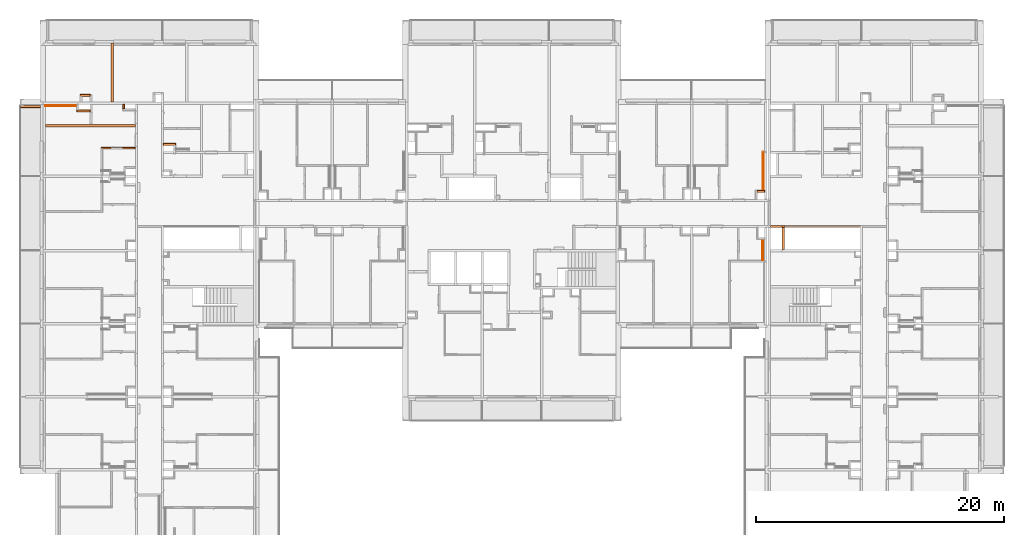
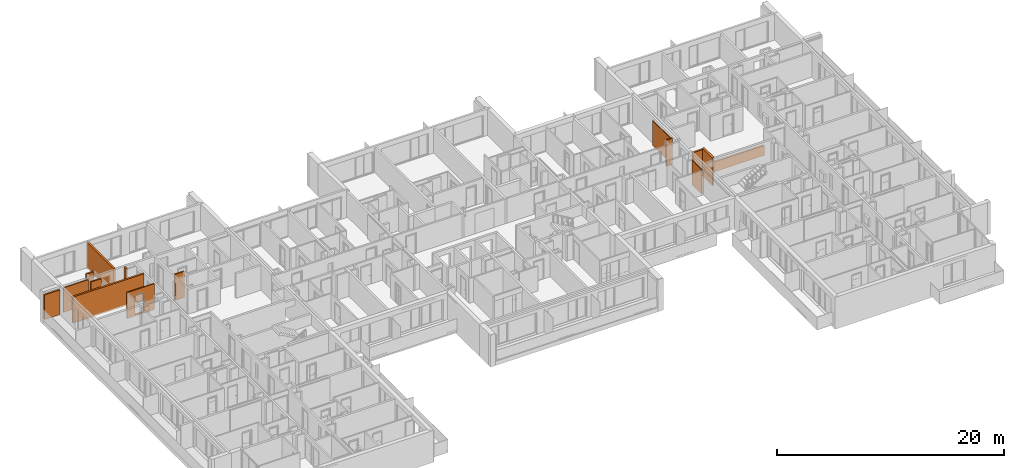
# One storey, part 61 of 67: 15 proxies, 1 opening.
"""IFC2X3 building model written with IfcOpenShell, lengths in millimetres."""

from ifc_helpers import new_model, entity, si_unit, converted_unit, derived_unit, money_unit, direction, frame, origin_with_axes, origin_2d_with_axis, place, context, subcontext, project, spatial, rectangle, extrude, faceted_brep, material, material_list, type_object, element, save


model = new_model("IFC2X3")

# Units and contexts
model_context = context("Model", 3, precision=0.01, world=origin_with_axes(), true_north=direction((0.34421633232, 0.938890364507)))
body_context = subcontext(model_context, "Body", "Model", "MODEL_VIEW")
ifc_project = project(units=[si_unit("LENGTHUNIT", "METRE", prefix="MILLI"), si_unit("AREAUNIT", "SQUARE_METRE"), si_unit("VOLUMEUNIT", "CUBIC_METRE"), converted_unit("PLANEANGLEUNIT", "DEGREE", entity("IfcPlaneAngleMeasure", 0.0174532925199), si_unit("PLANEANGLEUNIT", "RADIAN"), dimensions=[0, 0, 0, 0, 0, 0, 0]), si_unit("SOLIDANGLEUNIT", "STERADIAN"), money_unit("USD"), converted_unit("TIMEUNIT", "Year", entity("IfcTimeMeasure", 31556926.0), si_unit("TIMEUNIT", "SECOND"), dimensions=[0, 0, 1, 0, 0, 0, 0]), si_unit("MASSUNIT", "GRAM", prefix="KILO"), si_unit("THERMODYNAMICTEMPERATUREUNIT", "DEGREE_CELSIUS"), si_unit("LUMINOUSINTENSITYUNIT", "LUMEN"), si_unit("ENERGYUNIT", "JOULE", prefix="MEGA"), derived_unit("THERMALCONDUCTANCEUNIT", [(si_unit("POWERUNIT", "WATT"), 1), (si_unit("LENGTHUNIT", "METRE"), -1), (si_unit("THERMODYNAMICTEMPERATUREUNIT", "KELVIN"), -1)]), derived_unit("SPECIFICHEATCAPACITYUNIT", [(si_unit("ENERGYUNIT", "JOULE"), 1), (si_unit("MASSUNIT", "GRAM", prefix="KILO"), -1), (si_unit("THERMODYNAMICTEMPERATUREUNIT", "KELVIN"), -1)]), derived_unit("MASSDENSITYUNIT", [(si_unit("MASSUNIT", "GRAM", prefix="KILO"), 1), (si_unit("VOLUMEUNIT", "CUBIC_METRE"), -1)])], contexts=[model_context])

# Site, building, storey
site_placement = place(None, origin_with_axes())
site = spatial("IfcSite", under=ifc_project, at=site_placement, Name="USTRONIE MORSKIE", CompositionType="ELEMENT")
building_placement = place(site_placement, origin_with_axes())
building = spatial("IfcBuilding", under=site, at=building_placement, Name="Budynek", CompositionType="ELEMENT")
storey_placement = place(building_placement, frame((0.0, 0.0, 4000.0), z_axis=(0.0, 0.0, 1.0), x_axis=(1.0, 0.0, 0.0)))
storey = spatial("IfcBuildingStorey", under=building, at=storey_placement, Name="PIĘTRO 1", CompositionType="ELEMENT", Elevation=4000.0)

# Proxy, opening
ifc_material_1 = material(Name="Bloczki silikatowe")
building_element_proxy_type_1 = type_object("IfcBuildingElementProxyType", Name="Bloczki silikatowe 120", PredefinedType="NOTDEFINED")
proxy_1_placement = place(storey_placement, frame((354717.920919, 741061.218206, -160.0), z_axis=(0.0, 0.0, 1.0), x_axis=(1.0, 0.0, 0.0)))
proxy_1 = element("IfcBuildingElementProxy", 1, at=proxy_1_placement, inside=storey, type_object=building_element_proxy_type_1, material=ifc_material_1, Name="SW-04", context=body_context, shape_type="Brep", body=[
    faceted_brep([(2720.0, 59.9999999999, 0.0), (2720.0, -59.9999999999, 0.0), (-60.0, -59.9999999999, 0.0), (-60.0, 59.9999999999, 0.0), (2720.0, 59.9999999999, 2800.0), (2720.0, -59.9999999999, 2800.0), (-60.0, -59.9999999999, 2800.0), (-60.0, 59.9999999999, 2800.0)], [[[0, 1, 2, 3]], [[1, 0, 4, 5]], [[1, 5, 6, 2]], [[7, 3, 2, 6]], [[4, 0, 3, 7]], [[5, 4, 7, 6]]]),
])
opening_placement = place(proxy_1_placement, frame((1200.0, 0.0, 160.0), z_axis=(0.0, 0.0, 1.0), x_axis=(1.0, 0.0, 0.0)))
element("IfcOpeningElement", 2, at=opening_placement, cuts=proxy_1, Name="Dw.4", context=body_context, shape_type="SweptSolid", body=[
    extrude(rectangle(XDim=920.0, YDim=2070.0, at=origin_2d_with_axis()), frame((0.0, -120.0, 1035.0), z_axis=(0.0, 1.0, 0.0), x_axis=(1.0, 0.0, 0.0)), (0.0, 0.0, 1.0), 360.0),
    extrude(rectangle(XDim=994.0, YDim=2177.0, at=origin_2d_with_axis()), frame((0.0, -59.9999999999, 1088.5), z_axis=(0.0, 1.0, 0.0), x_axis=(1.0, 0.0, 0.0)), (0.0, 0.0, -1.0), 120.0),
    extrude(rectangle(XDim=994.0, YDim=2177.0, at=origin_2d_with_axis()), frame((0.0, 60.0000000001, 1088.5), z_axis=(0.0, -1.0, 0.0), x_axis=(1.0, 0.0, 0.0)), (0.0, 0.0, -1.0), 120.0),
])

# Proxies
building_element_proxy_type_2 = type_object("IfcBuildingElementProxyType", Name="Bloczki silikatowe 180", PredefinedType="NOTDEFINED")
proxy_2_placement = place(storey_placement, frame((357517.920919, 742871.199128, -160.0), z_axis=(0.0, 0.0, 1.0), x_axis=(-1.0, 0.0, 0.0)))
element("IfcBuildingElementProxy", 3, at=proxy_2_placement, inside=storey, type_object=building_element_proxy_type_2, material=ifc_material_1, Name="SW-02", context=body_context, shape_type="Brep", body=[
    faceted_brep([(7350.0, -90.0, 2800.0), (7350.0, 90.0, 2800.0), (80.0, 90.0, 2800.0), (80.0, -90.0, 2800.0), (7350.0, -90.0, 0.0), (7350.0, 90.0, 0.0), (80.0, 90.0, 0.0), (80.0, -90.0, 0.0)], [[[0, 1, 2, 3]], [[1, 0, 4, 5]], [[1, 5, 6, 2]], [[7, 3, 2, 6]], [[4, 0, 3, 7]], [[5, 4, 7, 6]]]),
])
proxy_3_placement = place(storey_placement, frame((408567.843428, 734741.199071, -160.0), z_axis=(0.0, 0.0, 1.0), x_axis=(1.0, 0.0, 0.0)))
element("IfcBuildingElementProxy", 4, at=proxy_3_placement, inside=storey, type_object=building_element_proxy_type_2, material=ifc_material_1, Name="SW-02", context=body_context, shape_type="Brep", body=[
    faceted_brep([(100.00050428, -90.0, 2800.0), (1050.07319249, -90.0, 2800.0), (1050.07228479, 90.0000000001, 2800.0), (99.9995965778, 90.0, 2800.0), (1050.07319249, -90.0, 0.0), (100.00050428, -90.0, 0.0), (1050.07228479, 90.0000000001, 0.0), (99.9995965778, 90.0, 0.0)], [[[0, 1, 2, 3]], [[4, 1, 0, 5]], [[6, 2, 1, 4]], [[3, 2, 6, 7]], [[5, 0, 3, 7]], [[7, 6, 4, 5]]]),
])
proxy_4_placement = place(storey_placement, frame((409717.916167, 734741.198985, -160.0), z_axis=(0.0, 0.0, 1.0), x_axis=(1.0, 0.0, 0.0)))
element("IfcBuildingElementProxy", 5, at=proxy_4_placement, inside=storey, type_object=building_element_proxy_type_2, material=ifc_material_1, Name="SW-02", context=body_context, shape_type="Brep", body=[
    faceted_brep([(6220.00475191, 90.0, 0.0), (99.9995461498, 90.0000852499, 0.0), (99.9995461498, 90.0000852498, 1060.0), (6220.00475191, 90.0, 1060.0), (6220.00475191, -90.0, 0.0), (100.000453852, -90.0, 0.0), (100.000453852, -90.0, 1060.0), (6220.00475191, -90.0, 1060.0)], [[[0, 1, 2, 3]], [[4, 5, 1, 0]], [[5, 6, 2, 1]], [[3, 2, 6, 7]], [[4, 0, 3, 7]], [[7, 6, 5, 4]]]),
])
ifc_material_2 = material(Name="Płyta GK")
ifc_material_3 = material(Name="-Pustka powietrzna")
ifc_material_list_1 = material_list([ifc_material_2, ifc_material_2, ifc_material_3])
building_element_proxy_type_3 = type_object("IfcBuildingElementProxyType", Name="330-SD GK 2-warstwy 75", PredefinedType="NOTDEFINED")
proxy_5_placement = place(storey_placement, frame((408087.943039, 737501.202288, -180.0), z_axis=(0.0, 0.0, 1.0), x_axis=(0.0, 1.0, 0.0)))
element("IfcBuildingElementProxy", 6, at=proxy_5_placement, inside=storey, type_object=building_element_proxy_type_3, material=ifc_material_list_1, Name="Ściana-009", context=body_context, shape_type="Brep", body=[
    faceted_brep([(150.0, 12.5, 165.0), (3282.5, 12.5, 165.0), (3282.5, 12.5, 2820.0), (150.0, 12.5, 2820.0), (3282.5, 25.0, 165.0), (150.0, 25.0, 165.0), (3282.5, 25.0, 2820.0), (150.0, 25.0, 2820.0)], [[[0, 1, 2, 3]], [[4, 1, 0, 5]], [[1, 4, 6, 2]], [[6, 7, 3, 2]], [[5, 0, 3, 7]], [[4, 5, 7, 6]]]),
    faceted_brep([(150.0, 0.0, 165.0), (3270.0, 0.0, 165.0), (3270.0, 0.0, 2820.0), (150.0, 0.0, 2820.0), (3270.0, 12.5, 165.0), (150.0, 12.5, 165.0), (3270.0, 12.5, 2820.0), (150.0, 12.5, 2820.0)], [[[0, 1, 2, 3]], [[4, 1, 0, 5]], [[1, 4, 6, 2]], [[6, 7, 3, 2]], [[5, 0, 3, 7]], [[4, 5, 7, 6]]]),
    faceted_brep([(150.0, -50.0, 180.0), (3220.0, -50.0, 180.0), (3220.0, -50.0, 2820.0), (150.0, -50.0, 2820.0), (3220.0, 0.0, 180.0), (150.0, 0.0, 180.0), (3220.0, 0.0, 2820.0), (150.0, 0.0, 2820.0)], [[[0, 1, 2, 3]], [[4, 1, 0, 5]], [[1, 4, 6, 2]], [[6, 7, 3, 2]], [[5, 0, 3, 7]], [[4, 5, 7, 6]]]),
])
ifc_material_list_2 = material_list([ifc_material_3, ifc_material_2, ifc_material_2])
proxy_6_placement = place(storey_placement, frame((408072.933272, 733851.192447, -160.0), z_axis=(0.0, 0.0, 1.0), x_axis=(0.0, -1.0, 0.0)))
element("IfcBuildingElementProxy", 7, at=proxy_6_placement, inside=storey, type_object=building_element_proxy_type_3, material=ifc_material_list_2, Name="Ściana-009", context=body_context, shape_type="Brep", body=[
    faceted_brep([(1839.99331466, 25.0, 160.0), (120.00171322, 25.0, 160.0), (120.00171322, 25.0, 2800.0), (1839.99331466, 25.0, 2800.0), (120.0001558, -25.0, 160.0), (1839.99331466, -25.0, 160.0), (120.0001558, -25.0, 2800.0), (1839.99331466, -25.0, 2800.0)], [[[0, 1, 2, 3]], [[4, 1, 0, 5]], [[1, 4, 6, 2]], [[7, 3, 2, 6]], [[5, 0, 3, 7]], [[4, 5, 7, 6]]]),
    faceted_brep([(1839.99331466, -25.0, 145.0), (120.0001558, -25.0, 145.0), (120.0001558, -25.0, 2800.0), (1839.99331466, -25.0, 2800.0), (119.999766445, -37.5, 145.0), (1839.99331466, -37.5, 145.0), (119.999766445, -37.5, 2800.0), (1839.99331466, -37.5, 2800.0)], [[[0, 1, 2, 3]], [[4, 1, 0, 5]], [[1, 4, 6, 2]], [[7, 3, 2, 6]], [[5, 0, 3, 7]], [[4, 5, 7, 6]]]),
    faceted_brep([(1839.99331466, -37.5, 145.0), (119.999766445, -37.5, 145.0), (119.999766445, -37.5, 2800.0), (1839.99331466, -37.5, 2800.0), (119.99937709, -50.0, 145.0), (1839.99331466, -50.0, 145.0), (119.99937709, -50.0, 2800.0), (1839.99331466, -50.0, 2800.0)], [[[0, 1, 2, 3]], [[4, 1, 0, 5]], [[1, 4, 6, 2]], [[7, 3, 2, 6]], [[5, 0, 3, 7]], [[4, 5, 7, 6]]]),
])
proxy_7_placement = place(storey_placement, frame((352792.920919, 744481.199036, -180.0), z_axis=(0.0, 0.0, 1.0), x_axis=(-1.0, 0.0, 0.0)))
element("IfcBuildingElementProxy", 8, at=proxy_7_placement, inside=storey, type_object=building_element_proxy_type_3, material=ifc_material_list_1, Name="Ściana-009", context=body_context, shape_type="Brep", body=[
    faceted_brep([(75.0, 25.0, 165.0), (75.0, 12.5, 165.0), (75.0, 12.5, 2820.0), (75.0, 25.0, 2820.0), (2624.99960992, 12.5000000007, 165.0), (2624.99961008, 25.0000000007, 165.0), (2625.0, 12.5000000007, 2820.0), (2625.0, 25.0000000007, 2820.0)], [[[0, 1, 2, 3]], [[4, 1, 0, 5]], [[1, 4, 6, 2]], [[7, 3, 2, 6]], [[5, 0, 3, 7]], [[4, 5, 7, 6]]]),
    faceted_brep([(75.0, 12.5, 165.0), (75.0, 0.0, 165.0), (75.0, 0.0, 2820.0), (75.0, 12.5, 2820.0), (2624.99960975, 6.8212102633e-10, 165.0), (2624.99960992, 12.5000000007, 165.0), (2625.0, 6.8212102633e-10, 2820.0), (2625.0, 12.5000000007, 2820.0)], [[[0, 1, 2, 3]], [[4, 1, 0, 5]], [[1, 4, 6, 2]], [[7, 3, 2, 6]], [[5, 0, 3, 7]], [[4, 5, 7, 6]]]),
    faceted_brep([(75.0, 0.0, 180.0), (75.0, -50.0, 180.0), (75.0, -50.0, 2820.0), (75.0, 0.0, 2820.0), (2624.99960908, -49.9999999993, 180.0), (2624.99960975, 6.8212102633e-10, 180.0), (2625.0, -49.9999999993, 2820.0), (2625.0, 6.8212102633e-10, 2820.0)], [[[0, 1, 2, 3]], [[4, 1, 0, 5]], [[1, 4, 6, 2]], [[7, 3, 2, 6]], [[5, 0, 3, 7]], [[4, 5, 7, 6]]]),
])
building_element_proxy_type_4 = type_object("IfcBuildingElementProxyType", Name="Bloczki silikatowe 150", PredefinedType="NOTDEFINED")
proxy_8_placement = place(storey_placement, frame((407617.937739, 737501.202288, -160.0), z_axis=(0.0, 0.0, 1.0), x_axis=(1.0, 0.0, 0.0)))
element("IfcBuildingElementProxy", 9, at=proxy_8_placement, inside=storey, type_object=building_element_proxy_type_4, material=ifc_material_1, Name="SW-03", context=body_context, shape_type="Brep", body=[
    faceted_brep([(599.983179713, 0.0, 2800.0), (599.983179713, 150.0, 2800.0), (0.0, 150.0, 2800.0), (0.0, 0.0, 2800.0), (599.983179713, 0.0, 0.0), (599.983179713, 150.0, 0.0), (0.0, 150.0, 0.0), (0.0, 0.0, 0.0)], [[[0, 1, 2, 3]], [[1, 0, 4, 5]], [[1, 5, 6, 2]], [[7, 3, 2, 6]], [[4, 0, 3, 7]], [[5, 4, 7, 6]]]),
])
proxy_9_placement = place(storey_placement, frame((352792.920919, 744091.199036, -160.0), z_axis=(0.0, 0.0, 1.0), x_axis=(1.0, 0.0, 0.0)))
element("IfcBuildingElementProxy", 10, at=proxy_9_placement, inside=storey, type_object=building_element_proxy_type_4, material=ifc_material_1, Name="SW-03", context=body_context, shape_type="Brep", body=[
    faceted_brep([(975.0, -90.0, 2800.0), (975.0, 59.9999999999, 2800.0), (-75.0, 59.9999999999, 2800.0), (-75.0, -90.0, 2800.0), (975.0, -90.0, 0.0), (975.0, 59.9999999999, 0.0), (-75.0, 59.9999999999, 0.0), (-75.0, -90.0, 0.0)], [[[0, 1, 2, 3]], [[1, 0, 4, 5]], [[1, 5, 6, 2]], [[7, 3, 2, 6]], [[4, 0, 3, 7]], [[5, 4, 7, 6]]]),
])
proxy_10_placement = place(storey_placement, frame((356477.920018, 744701.199036, -160.0), z_axis=(0.0, 0.0, 1.0), x_axis=(0.0, -1.0, 0.0)))
element("IfcBuildingElementProxy", 11, at=proxy_10_placement, inside=storey, type_object=building_element_proxy_type_4, material=ifc_material_1, Name="SW-04", context=body_context, shape_type="Brep", body=[
    faceted_brep([(450.0, 90.0, 0.0), (450.0, -60.0, 0.0), (100.0, -60.0, 0.0), (100.0, 90.0, 0.0), (450.0, 90.0, 2800.0), (450.0, -60.0, 2800.0), (100.0, -60.0, 2800.0), (100.0, 90.0, 2800.0)], [[[0, 1, 2, 3]], [[1, 0, 4, 5]], [[1, 5, 6, 2]], [[7, 3, 2, 6]], [[4, 0, 3, 7]], [[5, 4, 7, 6]]]),
])
proxy_11_placement = place(storey_placement, frame((360592.922714, 741376.180377, -160.0), z_axis=(0.0, 0.0, 1.0), x_axis=(-1.0, 0.0, 0.0)))
element("IfcBuildingElementProxy", 12, at=proxy_11_placement, inside=storey, type_object=building_element_proxy_type_4, material=ifc_material_1, Name="SW-04", context=body_context, shape_type="Brep", body=[
    faceted_brep([(895.001794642, -75.0, 2800.0), (895.001794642, 75.0, 2800.0), (-75.0, 75.0, 2800.0), (-75.0, -75.0, 2800.0), (895.001794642, -75.0, 0.0), (895.001794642, 75.0, 0.0), (-75.0, 75.0, 0.0), (-75.0, -75.0, 0.0)], [[[0, 1, 2, 3]], [[1, 0, 4, 5]], [[1, 5, 6, 2]], [[7, 3, 2, 6]], [[4, 0, 3, 7]], [[5, 4, 7, 6]]]),
])
proxy_12_placement = place(storey_placement, frame((353842.920919, 745311.199036, -160.0), z_axis=(0.0, 0.0, 1.0), x_axis=(-1.0, 0.0, 0.0)))
element("IfcBuildingElementProxy", 13, at=proxy_12_placement, inside=storey, type_object=building_element_proxy_type_4, material=ifc_material_1, Name="Œciana-007", context=body_context, shape_type="Brep", body=[
    faceted_brep([(875.0, -90.0, 2800.0), (875.0, 59.9999999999, 2800.0), (75.0, 59.9999999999, 2800.0), (75.0, -90.0, 2800.0), (875.0, -90.0, 0.0), (875.0, 59.9999999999, 0.0), (75.0, 59.9999999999, 0.0), (75.0, -90.0, 0.0)], [[[0, 1, 2, 3]], [[1, 0, 4, 5]], [[1, 5, 6, 2]], [[7, 3, 2, 6]], [[4, 0, 3, 7]], [[5, 4, 7, 6]]]),
])
ifc_material_4 = material(Name="Beton konstrukcyjny B25")
building_element_proxy_type_5 = type_object("IfcBuildingElementProxyType", Name="Beton konstrukcyjny B25 200", PredefinedType="NOTDEFINED")
proxy_13_placement = place(storey_placement, frame((355567.920919, 744701.199036, -230.0), z_axis=(0.0, 0.0, 1.0), x_axis=(0.0, 1.0, 0.0)))
element("IfcBuildingElementProxy", 14, at=proxy_13_placement, inside=storey, type_object=building_element_proxy_type_5, material=ifc_material_4, Name="SW-01", context=body_context, shape_type="Brep", body=[
    faceted_brep([(100.0, -100.0, 70.0), (4650.0, -100.0, 70.0), (4650.0, -100.0, 0.0), (4850.0, -100.0, 0.0), (4850.0, -100.0, 2870.0), (100.0, -100.0, 2870.0), (4650.0, 100.0, 70.0), (100.0, 100.0, 70.0), (4650.0, 100.0, 0.0), (4850.0, 100.0, 0.0), (4850.0, 100.0, 2870.0), (100.0, 100.0, 2870.0)], [[[0, 1, 2, 3, 4, 5]], [[6, 1, 0, 7]], [[8, 2, 1, 6]], [[3, 2, 8, 9]], [[3, 9, 10, 4]], [[4, 10, 11, 5]], [[11, 7, 0, 5]], [[8, 6, 7, 11, 10, 9]]]),
])
proxy_14_placement = place(storey_placement, frame((409717.916167, 734741.199071, -160.0), z_axis=(0.0, 0.0, 1.0), x_axis=(5.04278974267e-06, -0.999999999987, 0.0)))
element("IfcBuildingElementProxy", 15, at=proxy_14_placement, inside=storey, type_object=building_element_proxy_type_5, material=ifc_material_4, Name="SW-01", context=body_context, shape_type="Brep", body=[
    faceted_brep([(-90.0005042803, -100.0, 2800.0), (0.0, -100.0, 2800.0), (0.0, 100.0, 2800.0), (-89.9994957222, 100.0, 2800.0), (89.9994337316, -100.0, 3000.0), (89.9994337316, -100.0, 2800.0), (-90.0005042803, -100.0, 1060.0), (-90.0005042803, -100.0, 0.0), (1839.99953008, -100.0, 0.0), (1839.99953008, -100.0, 3000.0), (90.0004422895, 100.0, 2800.0), (90.0004422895, 100.0, 3000.0), (1840.00053864, 100.0, 3000.0), (1840.00053864, 100.0, 0.0), (-89.9994957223, 100.0, 0.0), (-89.9994957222, 100.0, 1060.0)], [[[0, 1, 2, 3]], [[4, 5, 1, 0, 6, 7, 8, 9]], [[5, 10, 2, 1]], [[2, 10, 11, 12, 13, 14, 15, 3]], [[3, 15, 6, 0]], [[5, 4, 11, 10]], [[15, 14, 7, 6]], [[14, 13, 8, 7]], [[9, 8, 13, 12]], [[12, 11, 4, 9]]]),
])
ifc_material_5 = material(Name="Laminat")
building_element_proxy_type_6 = type_object("IfcBuildingElementProxyType", Name="Laminat 150", PredefinedType="NOTDEFINED")
proxy_15_placement = place(storey_placement, frame((349757.921003, 744416.199036, -30.000001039), z_axis=(0.0, 0.0, 1.0), x_axis=(-1.0, 0.0, 0.0)))
element("IfcBuildingElementProxy", 16, at=proxy_15_placement, inside=storey, type_object=building_element_proxy_type_6, material=ifc_material_5, context=body_context, shape_type="Brep", body=[
    faceted_brep([(0.0, -75.0, 2659.99999287), (1589.999902, -75.0, 2659.99999287), (1589.999902, 75.0, 2659.99999287), (0.0, 75.0, 2659.99999287), (0.0, -75.0, 0.0), (1589.999902, -75.0, 0.0), (1589.999902, 75.0, 0.0), (0.0, 75.0, 0.0)], [[[0, 1, 2, 3]], [[4, 5, 1, 0]], [[1, 5, 6, 2]], [[3, 2, 6, 7]], [[3, 7, 4, 0]], [[7, 6, 5, 4]]]),
])

save(model, "model.ifc")
